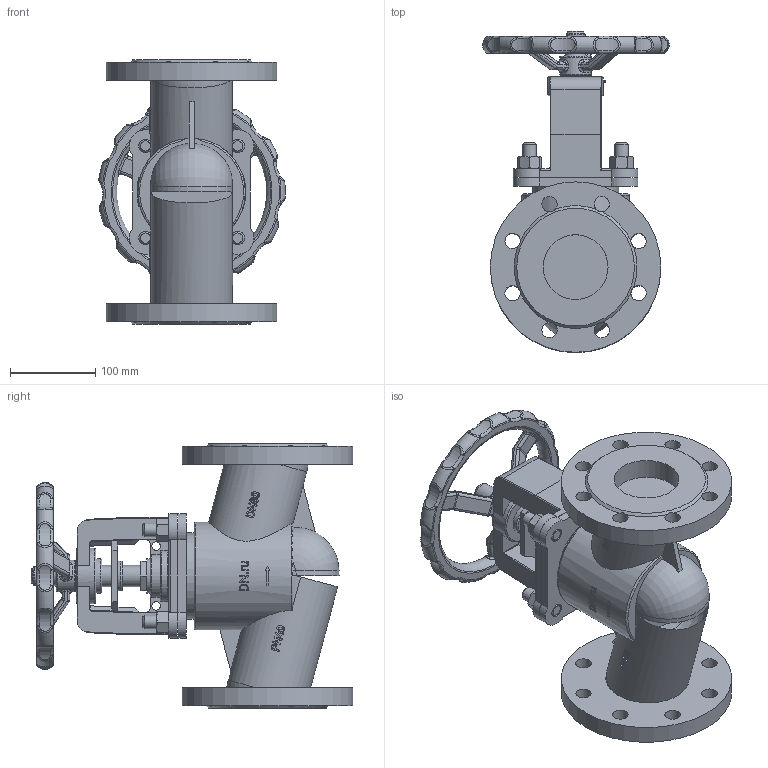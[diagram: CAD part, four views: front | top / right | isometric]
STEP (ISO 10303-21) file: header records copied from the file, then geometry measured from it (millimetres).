
FILE_DESCRIPTION(('STEP AP242'), '1');
FILE_NAME('VSO2130M-F-S 孰囡囗 玎镱痦 DN.ru 捏80 畜40', '2026-04-28T00:29:06', ('DN.ru'), (''), 'C3D Converter', 'C3D Toolkit', '');
FILE_SCHEMA(('AP242_MANAGED_MODEL_BASED_3D_ENGINEERING_MIM_LF { 1 0 10303 442 1 1 4 }'));
Length unit declared in the file: millimetre
Products named in the file (1): VSO2130M-F-S
Bounding box: 218.83 x 376.92 x 310 mm (x, y, z)
Volume: 4852359 mm3; surface area: 529489.9 mm2
Topology: 1 solids, 1 shells, 966 faces, 2487 edges, 1547 vertices
Faces by surface type: plane 288, extrusion 224, cylinder 197, torus 117, sphere 65, bspline 56, cone 19
Full cylindrical faces by diameter (mm): 0.5 x1, 1 x1, 2 x2, 10 x2, 16 x12, 18 x16, 22.35 x1, 25 x3, 35 x1, 37.25 x1, 38 x1, 40 x2, 65 x1, 76 x2, 96 x2, 101 x1, 126 x1, 200 x2
Entity records: 74089 total; most frequent: CARTESIAN_POINT 44585, ORIENTED_EDGE 4746, DIRECTION 3849, EDGE_CURVE 2373, VERTEX_POINT 1537, AXIS2_PLACEMENT_3D 1398, EDGE_LOOP 1144, VECTOR 1053
